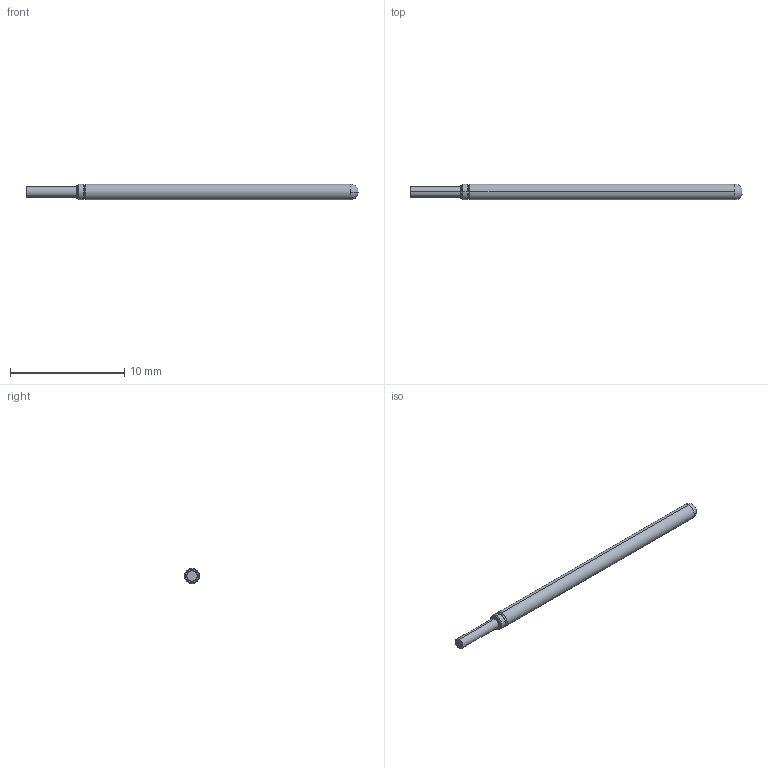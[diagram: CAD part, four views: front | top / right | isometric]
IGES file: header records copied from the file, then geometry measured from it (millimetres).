
Start section: SolidWorks IGES file using analytic representation for surfaces
Global section: file name: Z:\probe solid model mockups\Solidworks models\LTP-25\LTP-25Default RECD.IGS; native system: SolidWorks 2006 by SolidWorks Corporation; preprocessor: SolidWorks 2006 by SolidWorks Corporation; author: tsakatani; date: 071214.142925; units: inch
Bounding box: 29.08 x 1.37 x 1.37 mm (x, y, z)
Surface area: 120.6 mm2 (no closed solid volume)
Topology: 0 solids, 0 shells, 19 faces, 132 edges, 132 vertices
Faces by surface type: revolution 12, bspline 7
